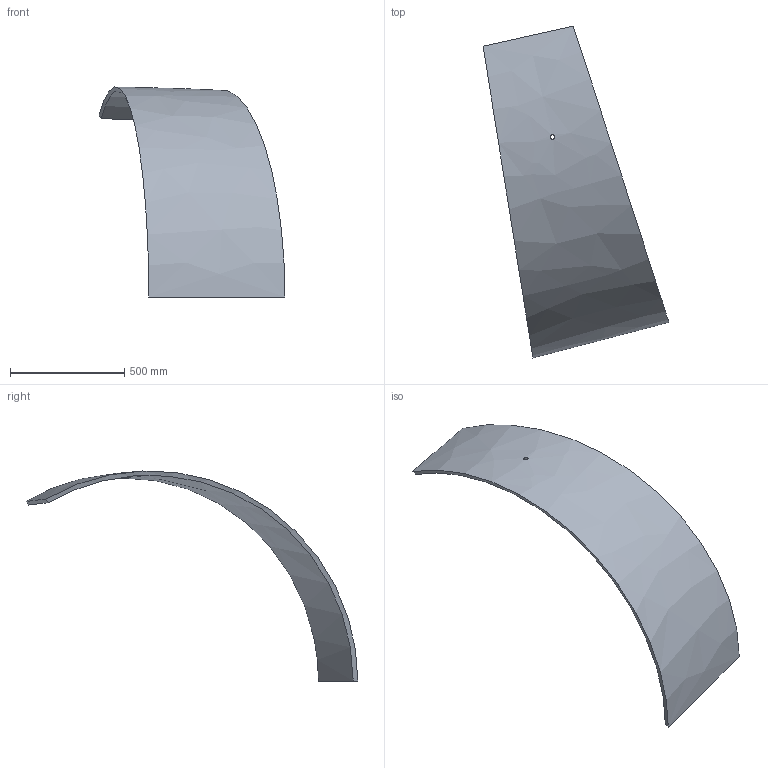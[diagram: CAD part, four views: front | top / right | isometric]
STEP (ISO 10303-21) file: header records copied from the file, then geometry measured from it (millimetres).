
FILE_DESCRIPTION (( 'STEP AP214' ), '1' );
FILE_NAME ('P12.2.STEP', '2025-01-09T19:43:25', ( '' ), ( '' ), 'SwSTEP 2.0', 'SolidWorks 2024', '' );
FILE_SCHEMA (( 'AUTOMOTIVE_DESIGN' ));
Length unit declared in the file: inch
Products named in the file (1): P12.2
Bounding box: 814.1 x 1453.12 x 920.21 mm (x, y, z)
Volume: 19330036.4 mm3; surface area: 2083924.6 mm2
Topology: 1 solids, 1 shells, 8 faces, 18 edges, 12 vertices
Faces by surface type: bspline 7, cylinder 1
Full cylindrical faces by diameter (mm): 19.447 x1
Entity records: 2561 total; most frequent: CARTESIAN_POINT 2413, ORIENTED_EDGE 30, B_SPLINE_CURVE_WITH_KNOTS 15, EDGE_CURVE 15, EDGE_LOOP 12, VERTEX_POINT 11, FACE_OUTER_BOUND 10, ADVANCED_FACE 8
